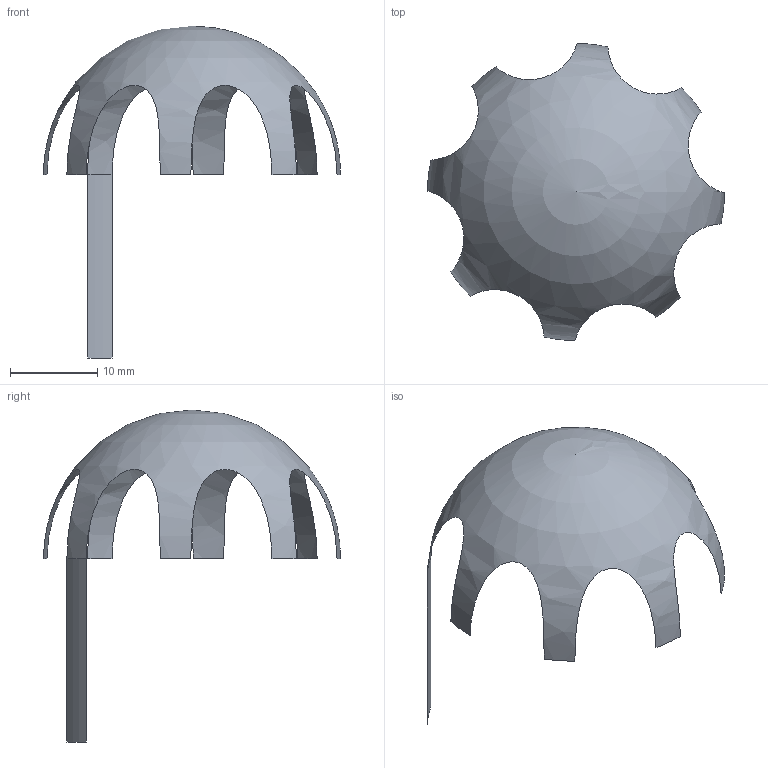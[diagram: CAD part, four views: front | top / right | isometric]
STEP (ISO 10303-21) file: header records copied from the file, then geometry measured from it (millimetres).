
FILE_DESCRIPTION(('BRL-CAD per-representation tolerance periodic-cap regression'),'2;1');
FILE_NAME('ap214_representation_tolerance_periodic_cap.stp','2026-07-24T00:00:00',('BRL-CAD'),('BRL-CAD'),'','','');
FILE_SCHEMA(('AUTOMOTIVE_DESIGN { 1 0 10303 214 3 1 1 1 }'));
Length unit declared in the file: millimetre
Products named in the file (1): representation_tolerance_periodic_cap
Bounding box: 34 x 34 x 38 mm (x, y, z)
Surface area: 1205.5 mm2 (no closed solid volume)
Topology: 0 solids, 1 shells, 2 faces, 22 edges, 20 vertices
Faces by surface type: cylinder 1, sphere 1
Entity records: 286 total; most frequent: CARTESIAN_POINT 149, DIRECTION 24, ORIENTED_EDGE 20, EDGE_CURVE 19, VERTEX_POINT 18, AXIS2_PLACEMENT_3D 11, CIRCLE 9, B_SPLINE_CURVE_WITH_KNOTS 8
